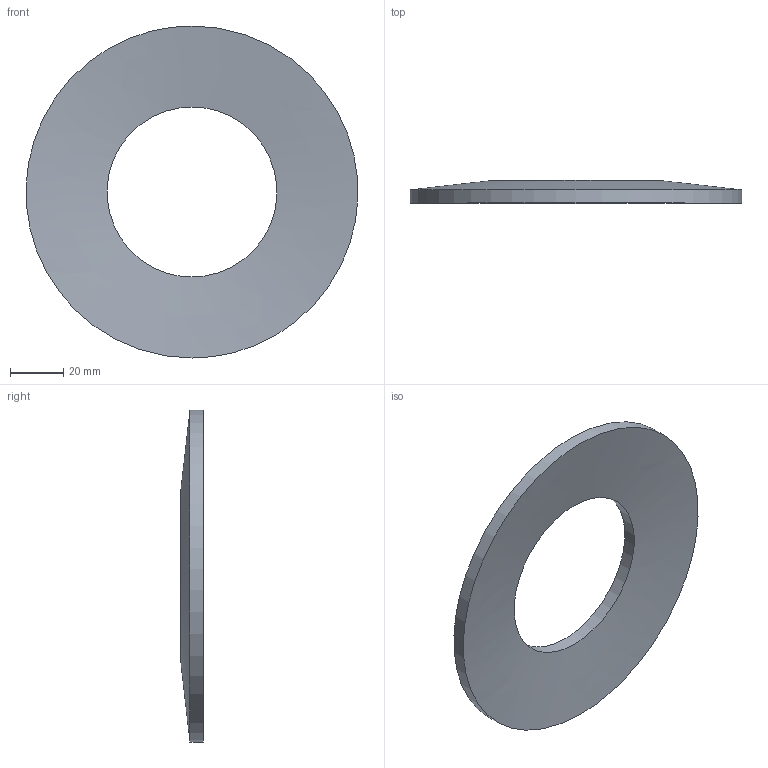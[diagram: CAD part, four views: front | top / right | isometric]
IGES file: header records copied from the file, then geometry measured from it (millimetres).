
Global section: file name: ST.1250.0640.0500; native system: Autodesk Inventor 2026; preprocessor: unknown; author: J. Iwanek; date: 20260918.103448; units: millimetre
Bounding box: 124.89 x 8.5 x 125 mm (x, y, z)
Volume: 45582.5 mm3; surface area: 21222 mm2
Topology: 1 solids, 1 shells, 4 faces, 12 edges, 8 vertices
Faces by surface type: bspline 4
